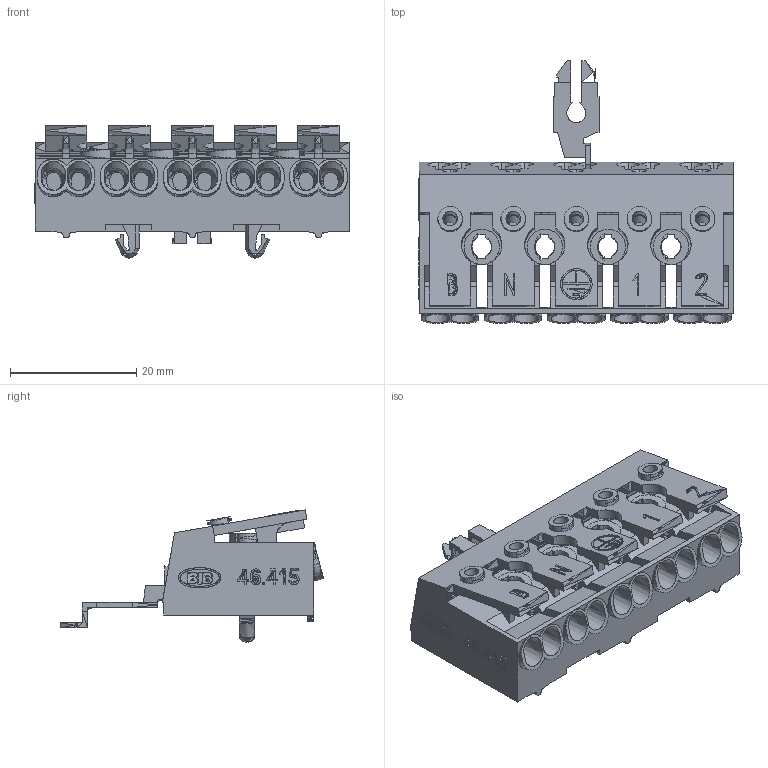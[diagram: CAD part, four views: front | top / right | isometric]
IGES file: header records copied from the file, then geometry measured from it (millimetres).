
Global section: file name: C:\coretechnologie2011\in/006YK21Y02.igs; native system: CT CoreTechnologie 3D Evolution; preprocessor: 2006; author: assmuth; date: 1110517.091046; units: millimetre
Bounding box: 49.9 x 41.68 x 20.98 mm (x, y, z)
Surface area: 9427.2 mm2 (no closed solid volume)
Topology: 0 solids, 0 shells, 778 faces, 4079 edges, 3982 vertices
Faces by surface type: bspline 778
